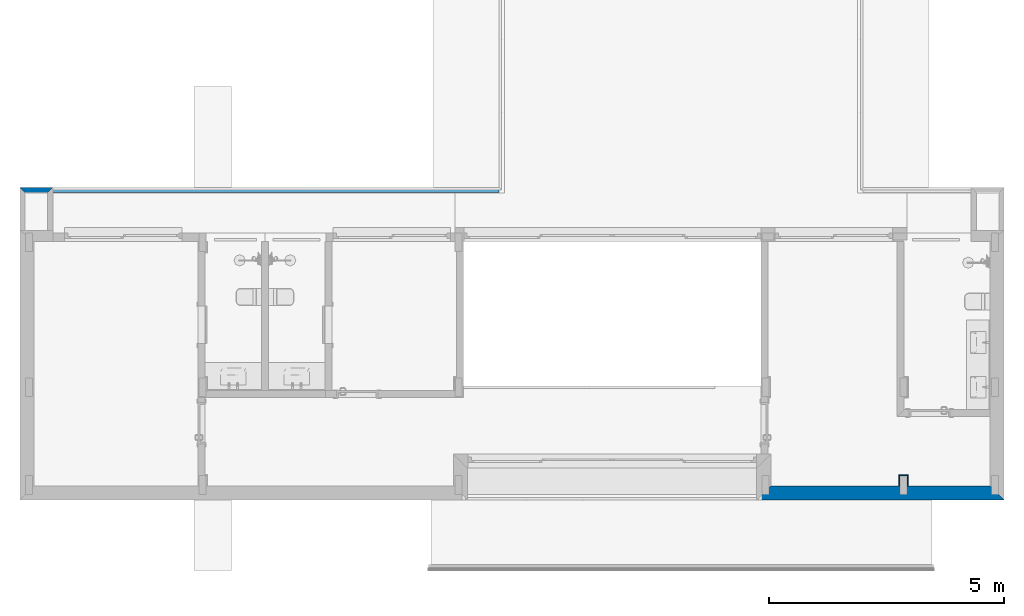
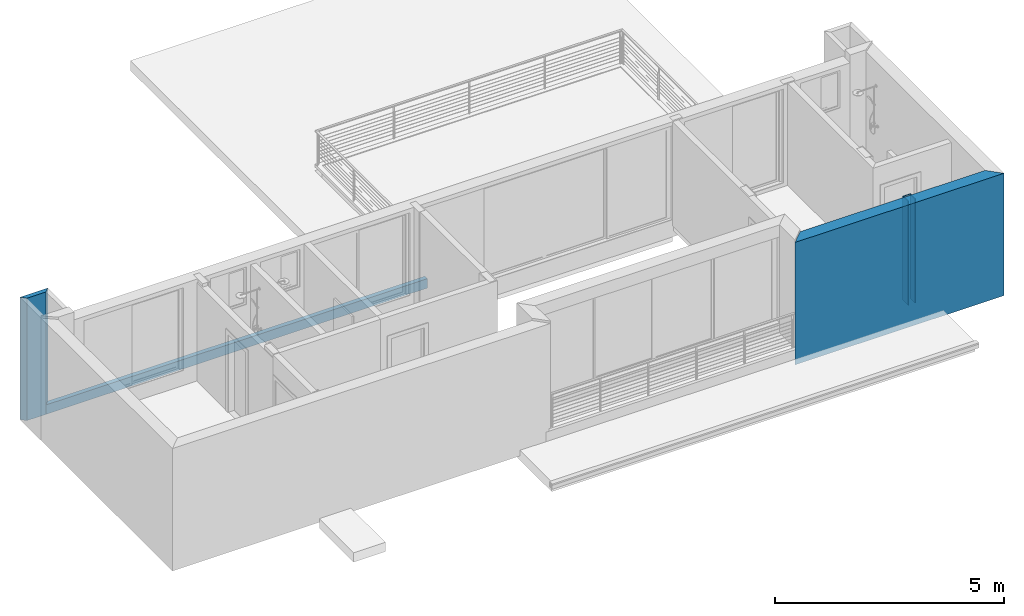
# One storey, part 11 of 24: 6 walls.
"""IFC2X3 building model written with IfcOpenShell, lengths in millimetres."""

from ifc_helpers import new_model, entity, si_unit, converted_unit, money_unit, direction, frame, origin_with_axes, place, context, subcontext, project, spatial, polyline, outline, extrude, material, layer, layer_set, layer_usage, type_object, element, save


model = new_model("IFC2X3")

# Units and contexts
model_context = context("Model", 3, precision=1e-05, world=origin_with_axes(), true_north=direction((0.0, 1.0)))
body_context = subcontext(model_context, "Body", "Model", "MODEL_VIEW")
ifc_project = project(units=[si_unit("LENGTHUNIT", "METRE", prefix="MILLI"), si_unit("AREAUNIT", "SQUARE_METRE"), si_unit("VOLUMEUNIT", "CUBIC_METRE"), converted_unit("PLANEANGLEUNIT", "DEGREE", entity("IfcPlaneAngleMeasure", 0.0174532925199), si_unit("PLANEANGLEUNIT", "RADIAN"), dimensions=[0, 0, 0, 0, 0, 0, 0]), si_unit("SOLIDANGLEUNIT", "STERADIAN"), money_unit("USD"), converted_unit("TIMEUNIT", "Year", entity("IfcTimeMeasure", 31556926.0), si_unit("TIMEUNIT", "SECOND"), dimensions=[0, 0, 0, 0, 0, 0, 0]), si_unit("MASSUNIT", "GRAM"), si_unit("THERMODYNAMICTEMPERATUREUNIT", "DEGREE_CELSIUS"), si_unit("LUMINOUSINTENSITYUNIT", "LUMEN")], contexts=[model_context])

# Site, building, storey
site_placement = place(None, origin_with_axes())
site = spatial("IfcSite", under=ifc_project, at=site_placement, Name="Grove Residential", CompositionType="ELEMENT")
building_placement = place(site_placement, origin_with_axes())
building = spatial("IfcBuilding", under=site, at=building_placement, Name="Building", CompositionType="ELEMENT")
storey_placement = place(building_placement, frame((0.0, 0.0, 3740.0), z_axis=(0.0, 0.0, 1.0), x_axis=(1.0, 0.0, 0.0)))
storey = spatial("IfcBuildingStorey", under=building, at=storey_placement, Name="First Floor", CompositionType="ELEMENT", Elevation=3740.0)

# Walls
ifc_material_1 = material(Name="Timber - External Cladding")
ifc_layer_1 = layer(ifc_material_1, 40.0, ventilated="UNKNOWN")
ifc_material_2 = material(Name="Air Space - Fixing Zone")
ifc_layer_2 = layer(ifc_material_2, 25.0, ventilated="UNKNOWN")
ifc_material_3 = material(Name="Insulation - Plastic Soft")
ifc_layer_3 = layer(ifc_material_3, 50.0, ventilated="UNKNOWN")
ifc_material_4 = material(Name="Concrete Block")
ifc_layer_4 = layer(ifc_material_4, 150.0, ventilated="UNKNOWN")
ifc_layer_5 = layer(ifc_material_2, 10.0, ventilated="UNKNOWN")
ifc_material_5 = material(Name="Gypsum Plasterboard")
ifc_layer_6 = layer(ifc_material_5, 12.5, ventilated="UNKNOWN")
ifc_layer_7 = layer(ifc_material_5, 12.5, ventilated="UNKNOWN")
ifc_layer_set_1 = layer_set([ifc_layer_1, ifc_layer_2, ifc_layer_3, ifc_layer_4, ifc_layer_5, ifc_layer_6, ifc_layer_7], Name="EWF - 002")
ifc_layer_usage_1 = layer_usage(ifc_layer_set_1, "AXIS2", "NEGATIVE", 115.0)
wall_type_1 = type_object("IfcWallType", Name="EWF - 002 300", PredefinedType="NOTDEFINED")
wall_1_placement = place(storey_placement, frame((12135.0, 1464.99992309, -400.0), z_axis=(0.0, 0.0, 1.0), x_axis=(-1.0, 0.0, 0.0)))
element("IfcWallStandardCase", 1, at=wall_1_placement, inside=storey, type_object=wall_type_1, material=ifc_layer_usage_1, Name="SW - 003", context=body_context, shape_type="SweptSolid", body=[
    extrude(outline(polyline([(185.0, -185.0), (4850.00004406, -185.0), (5150.00004406, 115.0), (-115.0, 115.0), (185.0, -185.0)])), origin_with_axes(), (0.0, 0.0, 1.0), 3260.0),
])
ifc_layer_8 = layer(ifc_material_1, 40.0, ventilated="UNKNOWN")
ifc_layer_9 = layer(ifc_material_2, 70.0, ventilated="UNKNOWN")
ifc_layer_set_2 = layer_set([ifc_layer_8, ifc_layer_9], Name="EWF - 007")
ifc_layer_usage_2 = layer_usage(ifc_layer_set_2, "AXIS2", "NEGATIVE", 115.0)
wall_type_2 = type_object("IfcWallType", Name="EWF - 007 110", PredefinedType="NOTDEFINED")
wall_2_placement = place(storey_placement, frame((-8585.0, 7885.0, -400.0), z_axis=(0.0, 0.0, 1.0), x_axis=(1.0, 0.0, 0.0)))
element("IfcWallStandardCase", 2, at=wall_2_placement, inside=storey, type_object=wall_type_2, material=ifc_layer_usage_2, Name="SW - 002", context=body_context, shape_type="SweptSolid", body=[
    extrude(outline(polyline([(-5.0, 5.0), (475.0, 5.0), (585.0, 115.0), (-115.0, 115.0), (-5.0, 5.0)])), origin_with_axes(), (0.0, 0.0, 1.0), 3260.0),
])
ifc_layer_usage_3 = layer_usage(ifc_layer_set_2, "AXIS2", "NEGATIVE", 115.0)
wall_3_placement = place(storey_placement, frame((-8115.0, 7885.0, -400.0), z_axis=(0.0, 0.0, 1.0), x_axis=(1.0, 0.0, 0.0)))
element("IfcWallStandardCase", 3, at=wall_3_placement, inside=storey, type_object=wall_type_2, material=ifc_layer_usage_3, Name="SW - 002", context=body_context, shape_type="SweptSolid", body=[
    extrude(outline(polyline([(0.0, 5.0), (9614.99983549, 5.0), (9614.99983549, 115.0), (0.0, 115.0), (0.0, 5.0)])), origin_with_axes(), (0.0, 0.0, 1.0), 250.0),
])
ifc_layer_10 = layer(ifc_material_5, 12.5, ventilated="UNKNOWN")
ifc_layer_11 = layer(ifc_material_5, 12.5, ventilated="UNKNOWN")
ifc_layer_set_3 = layer_set([ifc_layer_10, ifc_layer_11], Name="IF-001")
ifc_layer_usage_4 = layer_usage(ifc_layer_set_3, "AXIS2", "NEGATIVE", 25.0)
wall_type_3 = type_object("IfcWallType", Name="IF-001 25", PredefinedType="NOTDEFINED")
wall_4_placement = place(storey_placement, frame((10034.9999055, 1864.99992309, -60.0), z_axis=(0.0, 0.0, 1.0), x_axis=(1.0, 0.0, 0.0)))
element("IfcWallStandardCase", 4, at=wall_4_placement, inside=storey, type_object=wall_type_3, material=ifc_layer_usage_4, Name="SW - 011", context=body_context, shape_type="SweptSolid", body=[
    extrude(outline(polyline([(0.0, 0.0), (150.0, 0.0), (175.0, 25.0), (-25.0, 25.0), (0.0, 0.0)])), origin_with_axes(), (0.0, 0.0, 1.0), 2770.0),
])
ifc_layer_usage_5 = layer_usage(ifc_layer_set_3, "AXIS2", "NEGATIVE", 25.0)
wall_5_placement = place(storey_placement, frame((10184.9999055, 1864.99992309, -60.0), z_axis=(0.0, 0.0, 1.0), x_axis=(0.0, -1.0, 0.0)))
element("IfcWallStandardCase", 5, at=wall_5_placement, inside=storey, type_object=wall_type_3, material=ifc_layer_usage_5, Name="SW - 012", context=body_context, shape_type="SweptSolid", body=[
    extrude(outline(polyline([(0.0, 0.0), (215.0, 0.0), (215.0, 25.0), (-25.0, 25.0), (0.0, 0.0)])), origin_with_axes(), (0.0, 0.0, 1.0), 2770.0),
])
ifc_layer_usage_6 = layer_usage(ifc_layer_set_3, "AXIS2", "POSITIVE", -25.0)
wall_6_placement = place(storey_placement, frame((10034.9999055, 1864.99992309, -60.0), z_axis=(0.0, 0.0, 1.0), x_axis=(0.0, -1.0, 0.0)))
element("IfcWallStandardCase", 6, at=wall_6_placement, inside=storey, type_object=wall_type_3, material=ifc_layer_usage_6, Name="SW - 013", context=body_context, shape_type="SweptSolid", body=[
    extrude(outline(polyline([(-25.0, -25.0), (215.0, -25.0), (215.0, 0.0), (0.0, 0.0), (-25.0, -25.0)])), origin_with_axes(), (0.0, 0.0, 1.0), 2770.0),
])

save(model, "model.ifc")
